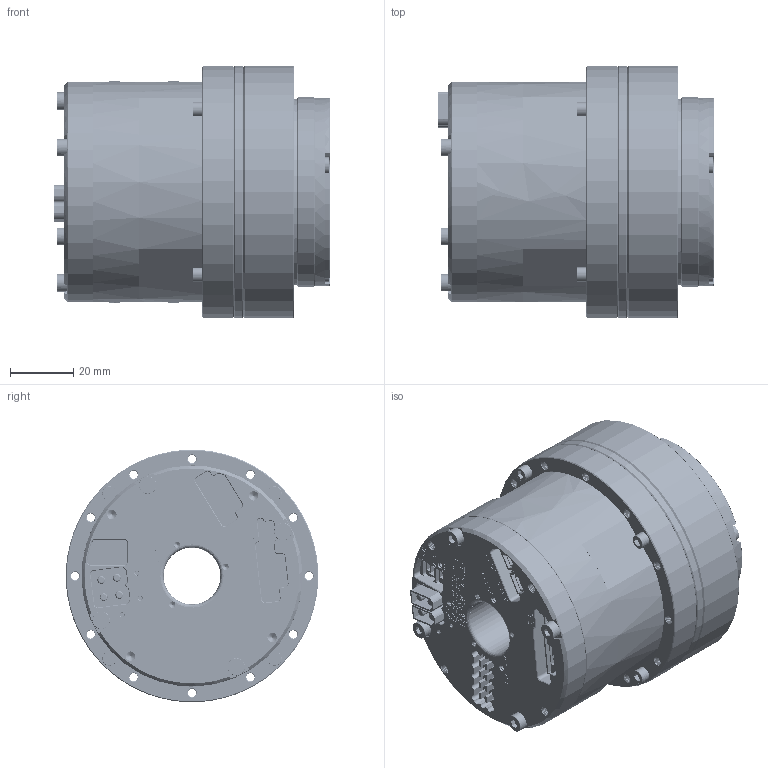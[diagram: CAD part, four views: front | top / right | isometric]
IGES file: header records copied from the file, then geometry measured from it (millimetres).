
Start section: SolidWorks IGES file using analytic representation for surfaces
Global section: file name: 45HG:\李鸿彬\解密模型20240411\官网更新整理\I型\eRob80 I型\eRob80 I型（V5）\eRob80H××I-XX-18EX_V5_MC2C.BX.XX\eRob80H××I-XX-18EX_V5_MC2C.EX.XX.igs; native system: SolidWorks 2021; preprocessor: SolidWorks 2021; author: ZERO; date: 240411.104642; units: millimetre
Bounding box: 87.6 x 80 x 80 mm (x, y, z)
Surface area: 47031.7 mm2 (no closed solid volume)
Topology: 0 solids, 0 shells, 4905 faces, 64947 edges, 64897 vertices
Faces by surface type: bspline 2874, revolution 2031
